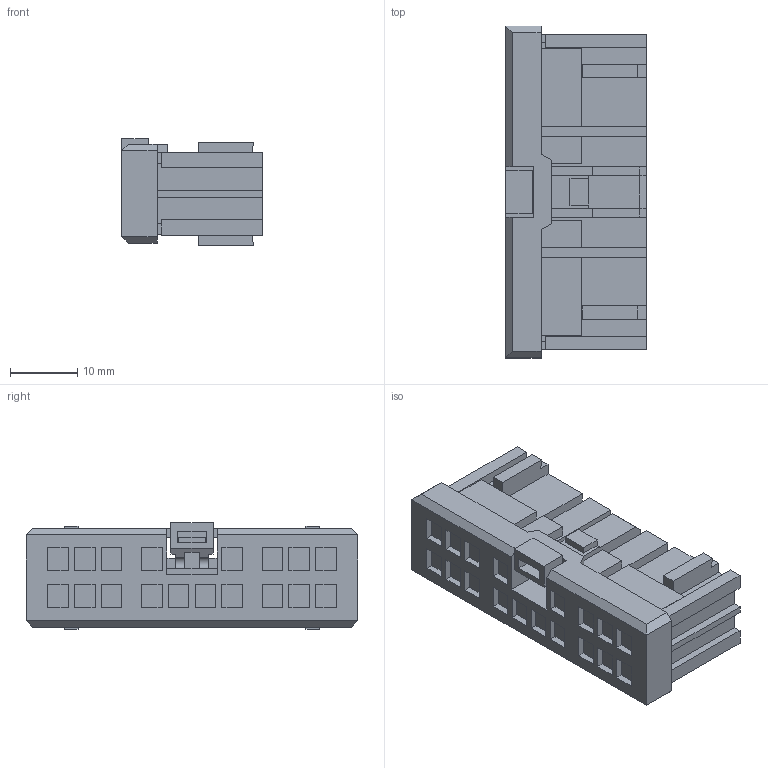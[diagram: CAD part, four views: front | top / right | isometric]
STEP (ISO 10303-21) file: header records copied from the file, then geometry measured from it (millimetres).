
FILE_DESCRIPTION(('CATIA V5 STEP Exchange'),'2;1');
FILE_NAME('N:\C-DAM_MyDesk\ENV\900093\6098-0257.stp','2013-04-03T07:15:31+00:00',('none'),('none'),'CATIA Version 5 Release 20 SP 4 (IN-10)','CATIA V5 STEP AP203','none');
FILE_SCHEMA(('CONFIG_CONTROL_DESIGN'));
Length unit declared in the file: millimetre
Products named in the file (1): 6098-0257
Bounding box: 21 x 49.5 x 15.9 mm (x, y, z)
Volume: 10429.8 mm3; surface area: 6076.3 mm2
Topology: 1 solids, 1 shells, 336 faces, 902 edges, 601 vertices
Faces by surface type: plane 334, cylinder 2
Entity records: 9353 total; most frequent: ORIENTED_EDGE 1804, CARTESIAN_POINT 1645, DIRECTION 1184, EDGE_CURVE 902, VECTOR 898, LINE 898, VERTEX_POINT 601, EDGE_LOOP 373
